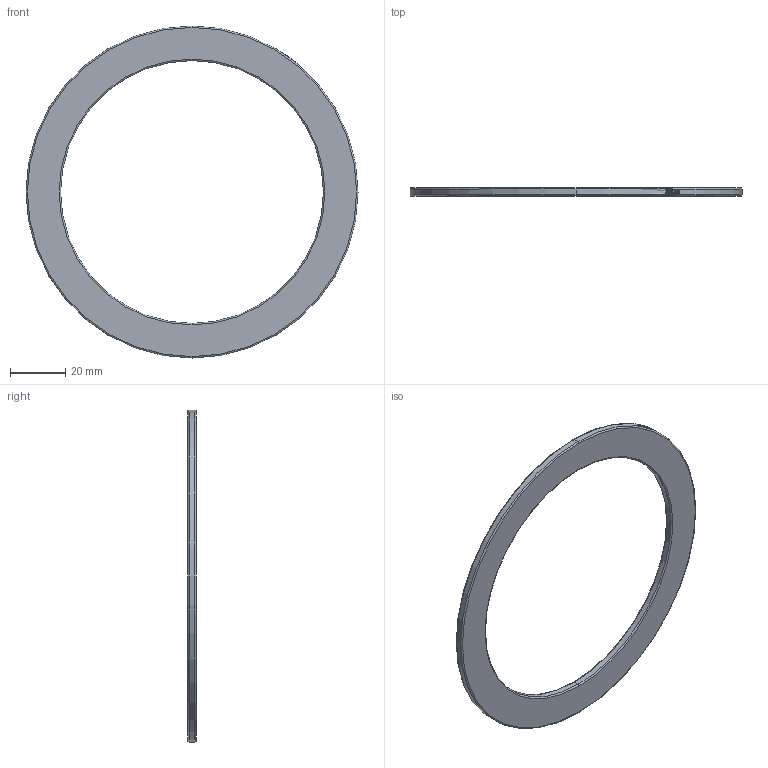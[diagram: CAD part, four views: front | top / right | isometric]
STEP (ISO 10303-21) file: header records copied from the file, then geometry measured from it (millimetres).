
FILE_DESCRIPTION (( 'STEP AP203' ), '1' );
FILE_NAME ('95X120X3.STEP', '2017-08-13T07:38:07', ( '' ), ( '' ), 'SwSTEP 2.0', 'SolidWorks 2014', '' );
FILE_SCHEMA (( 'CONFIG_CONTROL_DESIGN' ));
Length unit declared in the file: millimetre
Products named in the file (1): 95X120X3
Bounding box: 120 x 3 x 120 mm (x, y, z)
Volume: 12560.7 mm3; surface area: 10189.2 mm2
Topology: 1 solids, 1 shells, 98 faces, 259 edges, 170 vertices
Faces by surface type: plane 47, bspline 32, cylinder 11, torus 8
Entity records: 6272 total; most frequent: CARTESIAN_POINT 4024, ORIENTED_EDGE 518, DIRECTION 340, EDGE_CURVE 259, VERTEX_POINT 170, AXIS2_PLACEMENT_3D 129, B_SPLINE_CURVE_WITH_KNOTS 115, EDGE_LOOP 107
